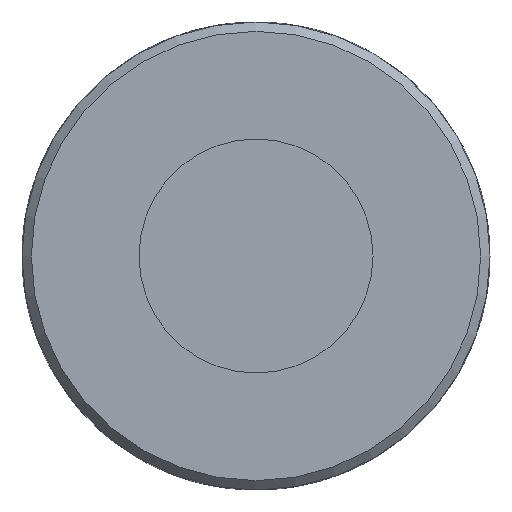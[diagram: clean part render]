
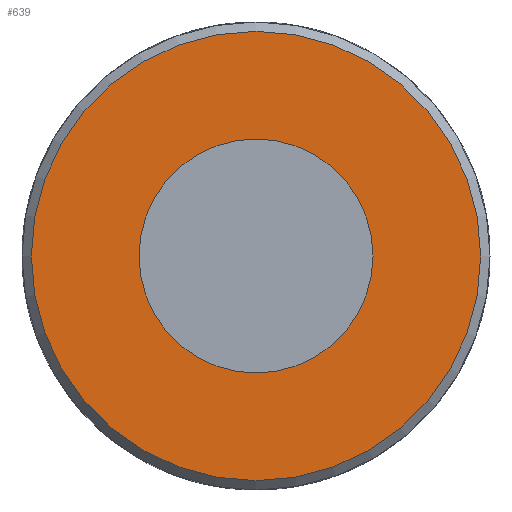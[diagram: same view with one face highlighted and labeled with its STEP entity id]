
A CAD part, front view. The second image highlights one B-rep face of the part: STEP entity #639.
In plain terms, the highlighted planar face has unit normal (0, -1, 0).
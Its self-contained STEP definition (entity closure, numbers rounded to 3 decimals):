
#123=PLANE('',#698);
#149=FACE_BOUND('',#233,.T.);
#176=FACE_OUTER_BOUND('',#232,.T.);
#232=EDGE_LOOP('',(#506));
#233=EDGE_LOOP('',(#507));
#277=CIRCLE('',#693,12.5);
#279=CIRCLE('',#696,24.);
#316=VERTEX_POINT('',#986);
#318=VERTEX_POINT('',#991);
#384=EDGE_CURVE('',#316,#316,#277,.T.);
#386=EDGE_CURVE('',#318,#318,#279,.T.);
#506=ORIENTED_EDGE('',*,*,#386,.F.);
#507=ORIENTED_EDGE('',*,*,#384,.T.);
#639=ADVANCED_FACE('',(#176,#149),#123,.F.);
#693=AXIS2_PLACEMENT_3D('',#987,#811,#812);
#696=AXIS2_PLACEMENT_3D('',#992,#817,#818);
#698=AXIS2_PLACEMENT_3D('',#1200,#825,#826);
#811=DIRECTION('center_axis',(0.,1.,0.));
#812=DIRECTION('ref_axis',(-1.,0.,0.));
#817=DIRECTION('center_axis',(0.,1.,0.));
#818=DIRECTION('ref_axis',(1.,0.,0.));
#825=DIRECTION('center_axis',(0.,1.,0.));
#826=DIRECTION('ref_axis',(0.,0.,1.));
#986=CARTESIAN_POINT('',(12.5,-66.5,0.));
#987=CARTESIAN_POINT('Origin',(0.,-66.5,0.));
#991=CARTESIAN_POINT('',(-24.,-66.5,0.));
#992=CARTESIAN_POINT('Origin',(0.,-66.5,0.));
#1200=CARTESIAN_POINT('Origin',(0.,-66.5,0.));
